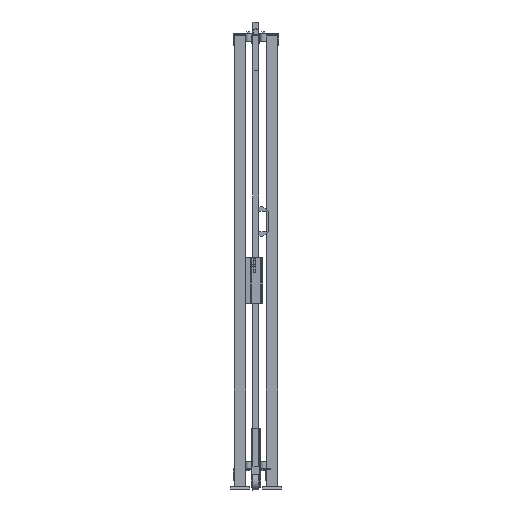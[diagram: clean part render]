
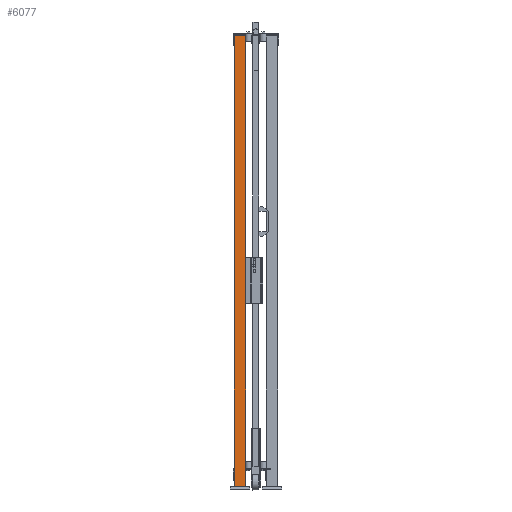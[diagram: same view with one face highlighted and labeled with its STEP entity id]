
A CAD part, left-side view. The second image highlights one B-rep face of the part: STEP entity #6077.
In plain terms, the highlighted planar face has unit normal (-1, 0, 0) as drawn and (0, 1, 0) by its records, which use the part's own axes.
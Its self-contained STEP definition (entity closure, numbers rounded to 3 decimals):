
#594=FACE_OUTER_BOUND('',#1061,.T.);
#1061=EDGE_LOOP('',(#3848,#3849,#3850,#3851));
#1589=VERTEX_POINT('',#13536);
#1590=VERTEX_POINT('',#13538);
#1592=VERTEX_POINT('',#13544);
#1595=VERTEX_POINT('',#13549);
#2463=EDGE_CURVE('',#1589,#1590,#7370,.T.);
#2469=EDGE_CURVE('',#1595,#1592,#7376,.T.);
#2472=EDGE_CURVE('',#1590,#1595,#7379,.T.);
#2473=EDGE_CURVE('',#1589,#1592,#7380,.T.);
#3848=ORIENTED_EDGE('',*,*,#2473,.T.);
#3849=ORIENTED_EDGE('',*,*,#2469,.F.);
#3850=ORIENTED_EDGE('',*,*,#2472,.F.);
#3851=ORIENTED_EDGE('',*,*,#2463,.F.);
#5654=PLANE('',#9450);
#6077=ADVANCED_FACE('',(#594),#5654,.F.);
#7370=LINE('',#13539,#8539);
#7376=LINE('',#13551,#8545);
#7379=LINE('',#13556,#8548);
#7380=LINE('',#13558,#8549);
#8539=VECTOR('',#10615,1.);
#8545=VECTOR('',#10623,1.);
#8548=VECTOR('',#10630,1.);
#8549=VECTOR('',#10633,1.);
#9450=AXIS2_PLACEMENT_3D('',#13557,#10631,#10632);
#10615=DIRECTION('',(-1.,0.,0.));
#10623=DIRECTION('',(1.,0.,0.));
#10630=DIRECTION('',(0.,0.,-1.));
#10631=DIRECTION('center_axis',(0.,-1.,0.));
#10632=DIRECTION('ref_axis',(0.,0.,-1.));
#10633=DIRECTION('',(0.,0.,-1.));
#13536=CARTESIAN_POINT('',(30.,30.,2320.));
#13538=CARTESIAN_POINT('',(-30.,30.,2320.));
#13539=CARTESIAN_POINT('',(0.,30.,2320.));
#13544=CARTESIAN_POINT('',(30.,30.,20.));
#13549=CARTESIAN_POINT('',(-30.,30.,20.));
#13551=CARTESIAN_POINT('',(0.,30.,20.));
#13556=CARTESIAN_POINT('',(-30.,30.,1170.));
#13557=CARTESIAN_POINT('Origin',(0.,30.,
1170.));
#13558=CARTESIAN_POINT('',(30.,30.,1170.));
